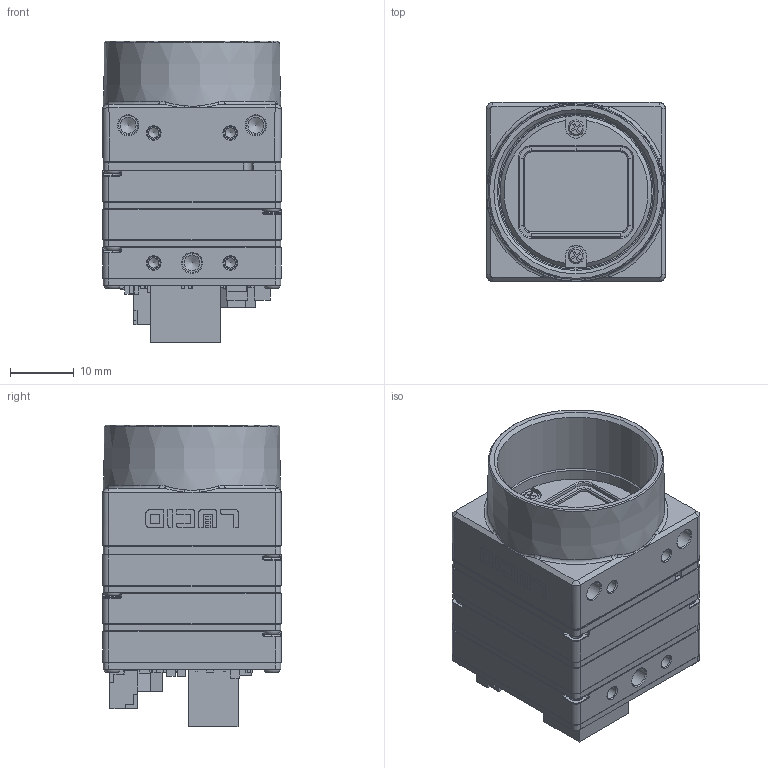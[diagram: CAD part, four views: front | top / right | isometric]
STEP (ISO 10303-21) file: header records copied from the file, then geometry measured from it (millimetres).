
FILE_DESCRIPTION (( 'STEP AP203' ), '1' );
FILE_NAME ('276-436-A.STEP', '2019-05-15T23:49:02', ( '' ), ( '' ), 'SwSTEP 2.0', 'SolidWorks 2017', '' );
FILE_SCHEMA (( 'CONFIG_CONTROL_DESIGN' ));
Products named in the file (1): 276-436-A
Bounding box: 28 x 28 x 47.23 mm (x, y, z)
Volume: 11575.9 mm3; surface area: 21832.8 mm2
Topology: 71 solids, 71 shells, 4540 faces, 11679 edges, 7215 vertices
Faces by surface type: plane 2702, cylinder 1076, bspline 313, cone 231, torus 120, sphere 98
Full cylindrical faces by diameter (mm): 1 x2, 1.05 x1, 1.1 x2, 1.2 x1, 1.35 x6, 1.6 x6, 1.7 x24, 1.8 x4, 1.9 x22, 2 x6, 2.5 x5, 3 x5, 24.2 x1, 24.64 x1
Entity records: 140212 total; most frequent: CARTESIAN_POINT 32786, ORIENTED_EDGE 22560, DIRECTION 21417, EDGE_CURVE 11280, VECTOR 8105, LINE 8105, VERTEX_POINT 7174, AXIS2_PLACEMENT_3D 6656
